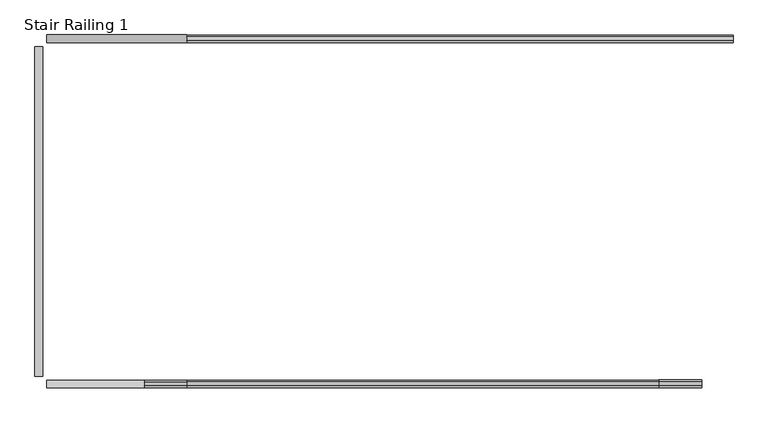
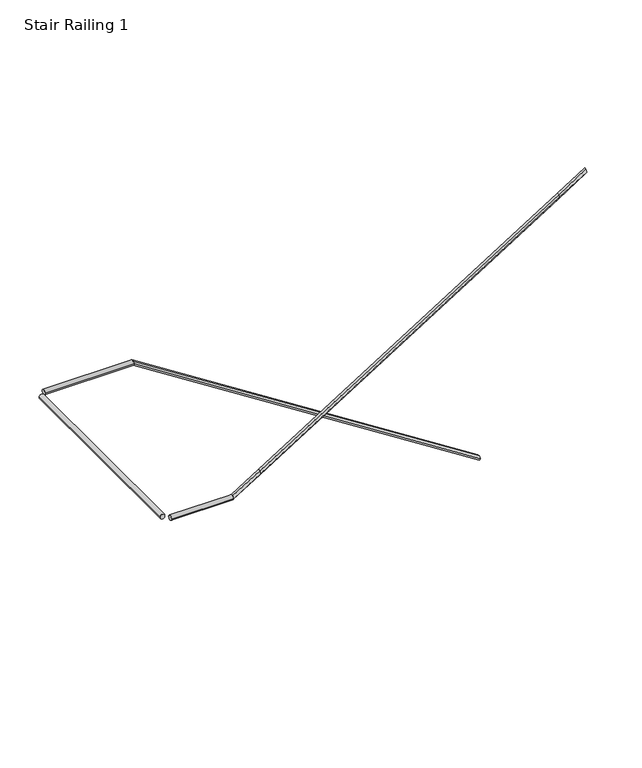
"""IFC4 building model written with IfcOpenShell, lengths in millimetres: railing geometry, Stair Railing 1."""

from ifc_helpers import new_model, si_unit, frame, origin, place, context, project, spatial, circle_curve, faceted_brep, source, transform, mapped, element, save
from ifc_brep_helpers import plane_surface, cylinder_surface, advanced_brep


def stair_railing_1_a30edcdb(model_context):
    return source(origin(), model_context, "Body", "SolidModel", [
        faceted_brep([(46974.7398084, 47258.2865351, 9028.2888889), (46974.7398084, 47245.5865351, 9006.2918436), (46974.7398084, 47220.1865351, 9006.2918436), (46974.7398084, 47207.4865351, 9028.2888889), (46974.7398084, 47220.1865351, 9050.2859341), (46974.7398084, 47245.5865351, 9050.2859341), (50533.2139908, 47258.2865351, 6753.5777778), (50533.2139908, 47245.5865351, 6775.574823), (50533.2139908, 47220.1865351, 6775.574823), (50533.2139908, 47207.4865351, 6753.5777778), (50533.2139908, 47220.1865351, 6731.5807325), (50533.2139908, 47245.5865351, 6731.5807325)], [[[0, 1, 2, 3, 4, 5]], [[6, 7, 8, 9, 10, 11]], [[1, 0, 6, 11]], [[2, 1, 11, 10]], [[3, 2, 10, 9]], [[4, 3, 9, 8]], [[5, 4, 8, 7]], [[0, 5, 7, 6]]]),
        advanced_brep(
        [(46060.3398084, 47258.2865351, 9028.2888889), (46060.3398084, 47207.4865351, 9028.2888889), (46974.7398084, 47258.2865351, 9028.2888889), (46974.7398084, 47207.4865351, 9028.2888889)],
        [
            (0, 1, circle_curve(frame((46060.3398084, 47232.8865351, 9028.2888889), z_axis=(-1.0, 0.0, 0.0), x_axis=(0.0, 1.0, 0.0)), 25.4)),
            (1, 0, circle_curve(frame((46060.3398084, 47232.8865351, 9028.2888889), z_axis=(-1.0, 0.0, 0.0), x_axis=(0.0, 1.0, 0.0)), 25.4)),
            (2, 3, circle_curve(frame((46974.7398084, 47232.8865351, 9028.2888889), z_axis=(1.0, 0.0, 0.0), x_axis=(0.0, 1.0, 0.0)), 25.4)),
            (3, 2, circle_curve(frame((46974.7398084, 47232.8865351, 9028.2888889), z_axis=(1.0, 0.0, 0.0), x_axis=(0.0, 1.0, 0.0)), 25.4)),
            (0, 2),
            (3, 1),
        ],
        [
            plane_surface(frame((46060.3398084, 47258.2865351, 9002.8888889), z_axis=(-1.0, 0.0, 0.0), x_axis=(0.0, -1.0, 0.0))),
            plane_surface(frame((46974.7398084, 47258.2865351, 9002.8888889), z_axis=(1.0, 0.0, 0.0), x_axis=(0.0, 1.0, 0.0))),
            cylinder_surface(frame((46974.7398084, 47232.8865351, 9028.2888889), z_axis=(-1.0, 0.0, 0.0), x_axis=(0.0, 1.0, 0.0)), 25.4),
        ],
        [
            (0, [[1, 2]]),
            (1, [[3, 4]]),
            (2, [[-1, 5, -4, 6]]),
            (2, [[-2, -6, -3, -5]]),
        ],
    ),
        advanced_brep(
        [(45984.1398084, 45032.0030566, 9028.2888889), (46034.9398084, 45032.0030566, 9028.2888889), (45984.1398084, 47182.0865351, 9028.2888889), (46034.9398084, 47182.0865351, 9028.2888889)],
        [
            (0, 1, circle_curve(frame((46009.5398084, 45032.0030566, 9028.2888889), z_axis=(0.0, -1.0, 0.0), x_axis=(-1.0, 0.0, 0.0)), 25.4)),
            (1, 0, circle_curve(frame((46009.5398084, 45032.0030566, 9028.2888889), z_axis=(0.0, -1.0, 0.0), x_axis=(-1.0, 0.0, 0.0)), 25.4)),
            (2, 3, circle_curve(frame((46009.5398084, 47182.0865351, 9028.2888889), z_axis=(0.0, 1.0, 0.0), x_axis=(-1.0, 0.0, 0.0)), 25.4)),
            (3, 2, circle_curve(frame((46009.5398084, 47182.0865351, 9028.2888889), z_axis=(0.0, 1.0, 0.0), x_axis=(-1.0, 0.0, 0.0)), 25.4)),
            (0, 2),
            (3, 1),
        ],
        [
            plane_surface(frame((45984.1398084, 45032.0030566, 9002.8888889), z_axis=(0.0, -1.0, 0.0), x_axis=(0.0, 0.0, -1.0))),
            plane_surface(frame((45984.1398084, 47182.0865351, 9002.8888889), z_axis=(0.0, 1.0, 0.0), x_axis=(0.0, 0.0, 1.0))),
            cylinder_surface(frame((46009.5398084, 47182.0865351, 9028.2888889), z_axis=(0.0, -1.0, 0.0), x_axis=(-1.0, 0.0, 0.0)), 25.4),
        ],
        [
            (0, [[1, 2]]),
            (1, [[3, 4]]),
            (2, [[-1, 5, -4, 6]]),
            (2, [[-2, -6, -3, -5]]),
        ],
    ),
        advanced_brep(
        [(46695.3398084, 44955.8030566, 9028.2888889), (46695.3398084, 45006.6030566, 9028.2888889), (46060.3398084, 44955.8030566, 9028.2888889), (46060.3398084, 45006.6030566, 9028.2888889)],
        [
            (0, 1, circle_curve(frame((46695.3398084, 44981.2030566, 9028.2888889), z_axis=(1.0, 0.0, 0.0), x_axis=(0.0, -1.0, 0.0)), 25.4)),
            (1, 0, circle_curve(frame((46695.3398084, 44981.2030566, 9028.2888889), z_axis=(1.0, 0.0, 0.0), x_axis=(0.0, -1.0, 0.0)), 25.4)),
            (2, 3, circle_curve(frame((46060.3398084, 44981.2030566, 9028.2888889), z_axis=(-1.0, 0.0, 0.0), x_axis=(0.0, -1.0, 0.0)), 25.4)),
            (3, 2, circle_curve(frame((46060.3398084, 44981.2030566, 9028.2888889), z_axis=(-1.0, 0.0, 0.0), x_axis=(0.0, -1.0, 0.0)), 25.4)),
            (0, 2),
            (3, 1),
        ],
        [
            plane_surface(frame((46695.3398084, 44955.8030566, 9002.8888889), z_axis=(1.0, 0.0, 0.0), x_axis=(0.0, 1.0, 0.0))),
            plane_surface(frame((46060.3398084, 44955.8030566, 9002.8888889), z_axis=(-1.0, 0.0, 0.0), x_axis=(0.0, -1.0, 0.0))),
            cylinder_surface(frame((46060.3398084, 44981.2030566, 9028.2888889), z_axis=(1.0, 0.0, 0.0), x_axis=(0.0, -1.0, 0.0)), 25.4),
        ],
        [
            (0, [[1, 2]]),
            (1, [[3, 4]]),
            (2, [[-1, 5, -4, 6]]),
            (2, [[-2, -6, -3, -5]]),
        ],
    ),
        faceted_brep([(46974.7398084, 44955.8030566, 9203.2666667), (46974.7398084, 44968.5030566, 9181.2696214), (46974.7398084, 44993.9030566, 9181.2696214), (46974.7398084, 45006.6030566, 9203.2666667), (46974.7398084, 44993.9030566, 9225.2637119), (46974.7398084, 44968.5030566, 9225.2637119), (46695.3398084, 44955.8030566, 9028.2888889), (46695.3398084, 44968.5030566, 9050.2859341), (46695.3398084, 44993.9030566, 9050.2859341), (46695.3398084, 45006.6030566, 9028.2888889), (46695.3398084, 44993.9030566, 9006.2918436), (46695.3398084, 44968.5030566, 9006.2918436)], [[[0, 1, 2, 3, 4, 5]], [[6, 7, 8, 9, 10, 11]], [[1, 0, 6, 11]], [[2, 1, 11, 10]], [[3, 2, 10, 9]], [[4, 3, 9, 8]], [[5, 4, 8, 7]], [[0, 5, 7, 6]]]),
        faceted_brep([(50048.1398084, 44955.8030566, 11128.0222222), (50048.1398084, 44968.5030566, 11106.025177), (50048.1398084, 44993.9030566, 11106.025177), (50048.1398084, 45006.6030566, 11128.0222222), (50048.1398084, 44993.9030566, 11150.0192675), (50048.1398084, 44968.5030566, 11150.0192675), (46974.7398084, 44955.8030566, 9203.2666667), (46974.7398084, 44968.5030566, 9225.2637119), (46974.7398084, 44993.9030566, 9225.2637119), (46974.7398084, 45006.6030566, 9203.2666667), (46974.7398084, 44993.9030566, 9181.2696214), (46974.7398084, 44968.5030566, 9181.2696214)], [[[0, 1, 2, 3, 4, 5]], [[6, 7, 8, 9, 10, 11]], [[1, 0, 6, 11]], [[2, 1, 11, 10]], [[3, 2, 10, 9]], [[4, 3, 9, 8]], [[5, 4, 8, 7]], [[0, 5, 7, 6]]]),
        faceted_brep([(50327.5398084, 44955.8030566, 11303.0), (50327.5398084, 44968.5030566, 11281.0029547), (50327.5398084, 44993.9030566, 11281.0029547), (50327.5398084, 45006.6030566, 11303.0), (50327.5398084, 44993.9030566, 11324.9970453), (50327.5398084, 44968.5030566, 11324.9970453), (50048.1398084, 44955.8030566, 11128.0222222), (50048.1398084, 44968.5030566, 11150.0192675), (50048.1398084, 44993.9030566, 11150.0192675), (50048.1398084, 45006.6030566, 11128.0222222), (50048.1398084, 44993.9030566, 11106.025177), (50048.1398084, 44968.5030566, 11106.025177)], [[[0, 1, 2, 3, 4, 5]], [[6, 7, 8, 9, 10, 11]], [[1, 0, 6, 11]], [[2, 1, 11, 10]], [[3, 2, 10, 9]], [[4, 3, 9, 8]], [[5, 4, 8, 7]], [[0, 5, 7, 6]]]),
    ])


if __name__ == "__main__":
    model = new_model("IFC4")
    model_context = context("Model", 3, world=origin())
    ifc_project = project(units=[si_unit("LENGTHUNIT", "METRE", prefix="MILLI")], contexts=[model_context])
    site = spatial("IfcSite", under=ifc_project)
    building = spatial("IfcBuilding", under=site)
    placement = place(None, origin())
    stair_railing_1_shape = stair_railing_1_a30edcdb(model_context)
    element("IfcRailing", 1, ObjectType="Stair Railing 1", at=placement, inside=building, context=model_context, shape_type="MappedRepresentation", body=[
        mapped(stair_railing_1_shape, transform((0.0, 0.0, 0.0), x_axis=(1.0, 0.0, 0.0), y_axis=(0.0, 1.0, 0.0), z_axis=(0.0, 0.0, 1.0))),
    ])
    save(model, "model.ifc")
